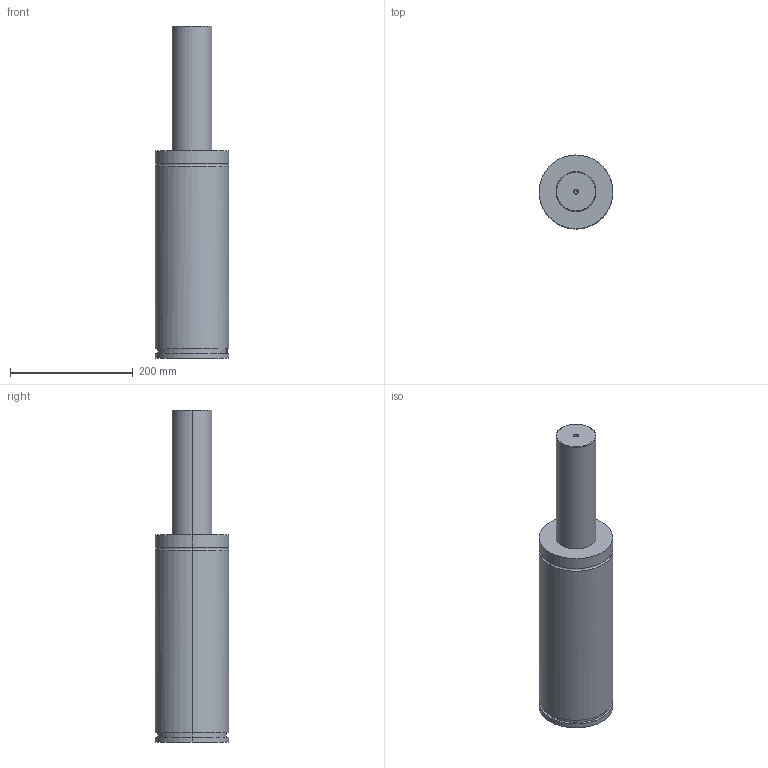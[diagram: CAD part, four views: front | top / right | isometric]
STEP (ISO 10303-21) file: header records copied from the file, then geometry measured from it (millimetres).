
FILE_DESCRIPTION(/* description */ (''),/* implementation_level */ '2;1');
FILE_NAME(/* name */ '3d_gse120-200_03863_r00.stp',/* time_stamp */ '2011-01-10T14:15:20+09:00',/* author */ ('MISUMI'),/* organization */ (''),/* preprocessor_version */ 'ST-DEVELOPER v11',/* originating_system */ 'UGS - NX 5.0',/* authorisation */ '');
FILE_SCHEMA (('CONFIG_CONTROL_DESIGN'));
Length unit declared in the file: millimetre
Products named in the file (1): 3d_gse120-200_03863_r00
Bounding box: 120 x 120 x 540 mm (x, y, z)
Volume: 4463525.7 mm3; surface area: 198055.7 mm2
Topology: 1 solids, 1 shells, 75 faces, 161 edges, 103 vertices
Faces by surface type: cylinder 34, plane 27, cone 10, torus 4
Entity records: 2145 total; most frequent: DIRECTION 393, CARTESIAN_POINT 360, ORIENTED_EDGE 318, AXIS2_PLACEMENT_3D 164, EDGE_CURVE 159, VERTEX_POINT 103, EDGE_LOOP 92, CIRCLE 88
